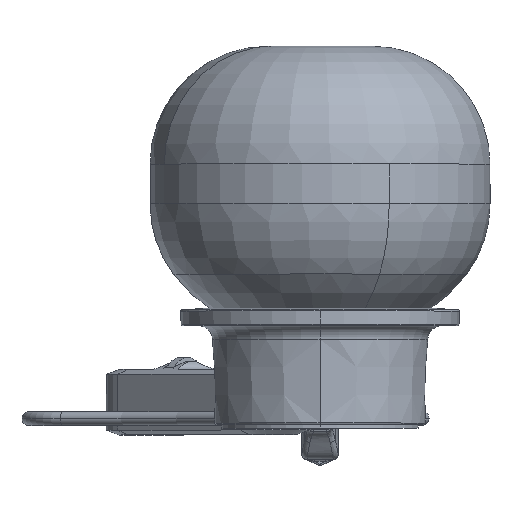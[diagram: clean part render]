
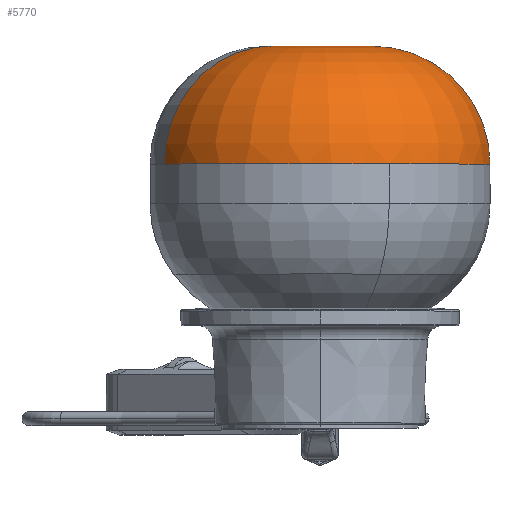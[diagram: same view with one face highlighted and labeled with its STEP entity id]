
A CAD part, top view. The second image highlights one B-rep face of the part: STEP entity #5770.
In plain terms, the highlighted toroidal (fillet/blend) face has major radius 20 mm and minor radius 45 mm.
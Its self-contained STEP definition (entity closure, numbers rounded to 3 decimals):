
#220 = CARTESIAN_POINT ( 'NONE',  ( 65., 0., 99.134 ) ) ;
#665 = DIRECTION ( 'NONE',  ( 1., 0., 0. ) ) ;
#1770 = CIRCLE ( 'NONE', #17889, 45. ) ;
#1949 = EDGE_CURVE ( 'NONE', #3583, #6318, #1770, .T. ) ;
#1989 = EDGE_CURVE ( 'NONE', #13572, #6318, #7310, .T. ) ;
#2590 = CARTESIAN_POINT ( 'NONE',  ( 0., 0., 144.134 ) ) ;
#3583 = VERTEX_POINT ( 'NONE', #3604 ) ;
#3604 = CARTESIAN_POINT ( 'NONE',  ( 0., -20., 144.134 ) ) ;
#4004 = DIRECTION ( 'NONE',  ( 0., 0., 1. ) ) ;
#4078 = ORIENTED_EDGE ( 'NONE', *, *, #1989, .F. ) ;
#4129 = CARTESIAN_POINT ( 'NONE',  ( 0., 65., 99.134 ) ) ;
#4548 = VERTEX_POINT ( 'NONE', #15606 ) ;
#4694 = DIRECTION ( 'NONE',  ( -1., 0., 0. ) ) ;
#4883 = EDGE_LOOP ( 'NONE', ( #11928, #16215, #4078, #8687, #14676 ) ) ;
#5157 = AXIS2_PLACEMENT_3D ( 'NONE', #15154, #13732, #11085 ) ;
#5714 = DIRECTION ( 'NONE',  ( 0., 0., -1. ) ) ;
#5770 = ADVANCED_FACE ( 'NONE', ( #16583 ), #7579, .T. ) ;
#6308 = EDGE_CURVE ( 'NONE', #18021, #13572, #8899, .T. ) ;
#6318 = VERTEX_POINT ( 'NONE', #18735 ) ;
#6498 = DIRECTION ( 'NONE',  ( 0., 0., 1. ) ) ;
#6993 = CARTESIAN_POINT ( 'NONE',  ( 0., 0., 99.134 ) ) ;
#7091 = EDGE_CURVE ( 'NONE', #3583, #4548, #13762, .T. ) ;
#7144 = AXIS2_PLACEMENT_3D ( 'NONE', #16528, #4694, #6498 ) ;
#7310 = CIRCLE ( 'NONE', #13042, 65. ) ;
#7579 = TOROIDAL_SURFACE ( 'NONE', #5157, 20., 45. ) ;
#8460 = DIRECTION ( 'NONE',  ( 0., 1., 0. ) ) ;
#8687 = ORIENTED_EDGE ( 'NONE', *, *, #6308, .F. ) ;
#8690 = DIRECTION ( 'NONE',  ( 1., 0., 0. ) ) ;
#8899 = CIRCLE ( 'NONE', #12832, 65. ) ;
#9856 = CIRCLE ( 'NONE', #7144, 45. ) ;
#10007 = DIRECTION ( 'NONE',  ( 0., 0., -1. ) ) ;
#10329 = CARTESIAN_POINT ( 'NONE',  ( 0., -20., 99.134 ) ) ;
#10621 = EDGE_CURVE ( 'NONE', #4548, #18021, #9856, .T. ) ;
#11085 = DIRECTION ( 'NONE',  ( 0., 1., 0. ) ) ;
#11928 = ORIENTED_EDGE ( 'NONE', *, *, #7091, .F. ) ;
#12832 = AXIS2_PLACEMENT_3D ( 'NONE', #6993, #10007, #8690 ) ;
#13042 = AXIS2_PLACEMENT_3D ( 'NONE', #15063, #14869, #665 ) ;
#13572 = VERTEX_POINT ( 'NONE', #220 ) ;
#13732 = DIRECTION ( 'NONE',  ( 0., 0., -1. ) ) ;
#13762 = CIRCLE ( 'NONE', #15573, 20. ) ;
#14314 = DIRECTION ( 'NONE',  ( 1., 0., 0. ) ) ;
#14676 = ORIENTED_EDGE ( 'NONE', *, *, #10621, .F. ) ;
#14869 = DIRECTION ( 'NONE',  ( 0., 0., -1. ) ) ;
#15063 = CARTESIAN_POINT ( 'NONE',  ( 0., 0., 99.134 ) ) ;
#15154 = CARTESIAN_POINT ( 'NONE',  ( 0., 0., 99.134 ) ) ;
#15573 = AXIS2_PLACEMENT_3D ( 'NONE', #2590, #4004, #8460 ) ;
#15606 = CARTESIAN_POINT ( 'NONE',  ( 0., 20., 144.134 ) ) ;
#16215 = ORIENTED_EDGE ( 'NONE', *, *, #1949, .T. ) ;
#16528 = CARTESIAN_POINT ( 'NONE',  ( 0., 20., 99.134 ) ) ;
#16583 = FACE_OUTER_BOUND ( 'NONE', #4883, .T. ) ;
#17889 = AXIS2_PLACEMENT_3D ( 'NONE', #10329, #14314, #5714 ) ;
#18021 = VERTEX_POINT ( 'NONE', #4129 ) ;
#18735 = CARTESIAN_POINT ( 'NONE',  ( 0., -65., 99.134 ) ) ;
